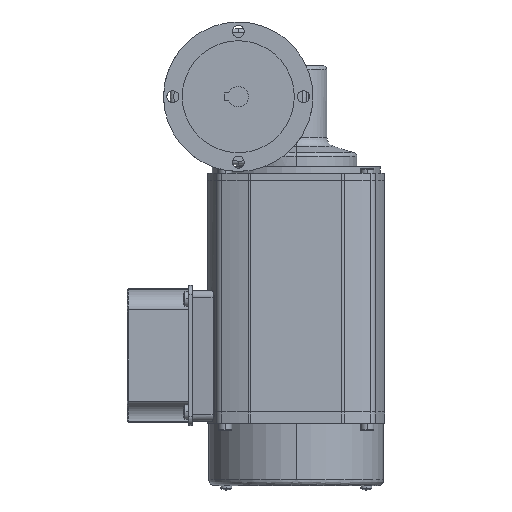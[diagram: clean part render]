
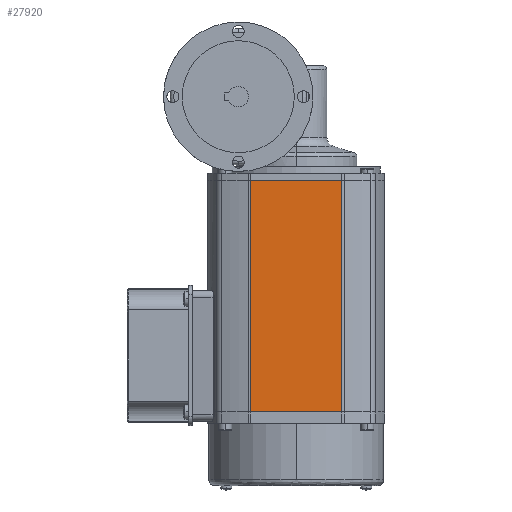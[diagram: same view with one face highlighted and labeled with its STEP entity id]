
A CAD part, left-side view. The second image highlights one B-rep face of the part: STEP entity #27920.
In plain terms, the highlighted planar face has unit normal (-1, 0, 0) as drawn and (0, 1, 0) by its records, which use the part's own axes.
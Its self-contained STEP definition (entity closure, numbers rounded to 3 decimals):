
#551 = EDGE_CURVE ( 'NONE', #17408, #18200, #9010, .T. ) ;
#1688 = VECTOR ( 'NONE', #28983, 1000. ) ;
#2393 = CARTESIAN_POINT ( 'NONE',  ( 134.291, 480.5, 20.91 ) ) ;
#2743 = CARTESIAN_POINT ( 'NONE',  ( 183.109, 480.5, 20.91 ) ) ;
#3998 = CARTESIAN_POINT ( 'NONE',  ( 183.109, 480.5, -102.89 ) ) ;
#5481 = EDGE_LOOP ( 'NONE', ( #18223, #11314, #14574, #26071 ) ) ;
#5683 = PLANE ( 'NONE',  #20980 ) ;
#8082 = EDGE_CURVE ( 'NONE', #18200, #14512, #20570, .T. ) ;
#8152 = LINE ( 'NONE', #26788, #26128 ) ;
#8349 = VECTOR ( 'NONE', #17439, 1000. ) ;
#9010 = LINE ( 'NONE', #22309, #1688 ) ;
#10613 = DIRECTION ( 'NONE',  ( 0., 0., 1. ) ) ;
#11314 = ORIENTED_EDGE ( 'NONE', *, *, #8082, .T. ) ;
#12181 = DIRECTION ( 'NONE',  ( 1., 0., 0. ) ) ;
#13631 = CARTESIAN_POINT ( 'NONE',  ( 134.291, 480.5, 20.91 ) ) ;
#13721 = VERTEX_POINT ( 'NONE', #24094 ) ;
#14512 = VERTEX_POINT ( 'NONE', #3998 ) ;
#14574 = ORIENTED_EDGE ( 'NONE', *, *, #16154, .F. ) ;
#16154 = EDGE_CURVE ( 'NONE', #13721, #14512, #8152, .T. ) ;
#17408 = VERTEX_POINT ( 'NONE', #13631 ) ;
#17439 = DIRECTION ( 'NONE',  ( 0., 0., -1. ) ) ;
#18200 = VERTEX_POINT ( 'NONE', #24349 ) ;
#18223 = ORIENTED_EDGE ( 'NONE', *, *, #551, .T. ) ;
#19403 = VECTOR ( 'NONE', #19543, 1000. ) ;
#19543 = DIRECTION ( 'NONE',  ( 0., 0., 1. ) ) ;
#20570 = LINE ( 'NONE', #2743, #8349 ) ;
#20980 = AXIS2_PLACEMENT_3D ( 'NONE', #22802, #25255, #10613 ) ;
#22309 = CARTESIAN_POINT ( 'NONE',  ( 158.7, 480.5, 20.91 ) ) ;
#22802 = CARTESIAN_POINT ( 'NONE',  ( 158.7, 480.5, 20.91 ) ) ;
#22935 = FACE_OUTER_BOUND ( 'NONE', #5481, .T. ) ;
#24094 = CARTESIAN_POINT ( 'NONE',  ( 134.291, 480.5, -102.89 ) ) ;
#24349 = CARTESIAN_POINT ( 'NONE',  ( 183.109, 480.5, 20.91 ) ) ;
#25143 = LINE ( 'NONE', #2393, #19403 ) ;
#25255 = DIRECTION ( 'NONE',  ( 0., 1., 0. ) ) ;
#26071 = ORIENTED_EDGE ( 'NONE', *, *, #29926, .T. ) ;
#26128 = VECTOR ( 'NONE', #12181, 1000. ) ;
#26788 = CARTESIAN_POINT ( 'NONE',  ( 157.529, 480.5, -102.89 ) ) ;
#27920 = ADVANCED_FACE ( 'NONE', ( #22935 ), #5683, .T. ) ;
#28983 = DIRECTION ( 'NONE',  ( 1., 0., 0. ) ) ;
#29926 = EDGE_CURVE ( 'NONE', #13721, #17408, #25143, .T. ) ;
